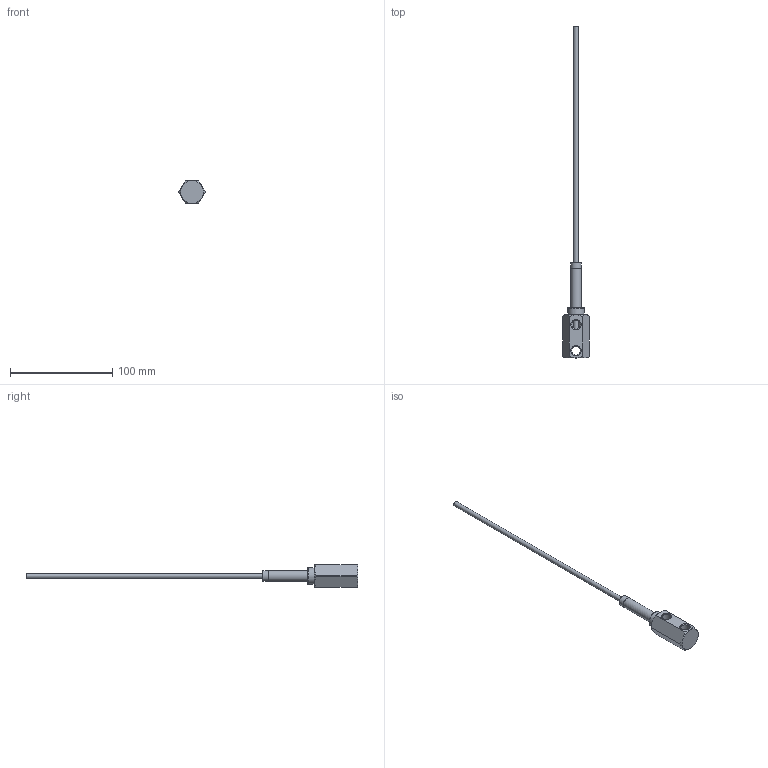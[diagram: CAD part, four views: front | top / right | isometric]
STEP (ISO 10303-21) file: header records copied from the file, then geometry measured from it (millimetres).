
FILE_DESCRIPTION(/* description */ (''),/* implementation_level */ '2;1');
FILE_NAME(/* name */ 'C:/Users/drich/Desktop/181N v1.step',/* time_stamp */ '2020-01-15T19:40:43-06:00',/* author */ (''),/* organization */ (''),/* preprocessor_version */ 'ST-DEVELOPER v18',/* originating_system */ 'Autodesk Translation Framework v8.12.0.6',/* authorisation */ '');
FILE_SCHEMA (('AUTOMOTIVE_DESIGN { 1 0 10303 214 3 1 1 }'));
Length unit declared in the file: inch
Products named in the file (4): 181N; 181H; SSPN18-2; 187T-12
Assembly tree (3 placements, depth 2):
  181N
    181H
    SSPN18-2
    187T-12
Bounding box: 25.65 x 324.03 x 22.23 mm (x, y, z)
Volume: 21283.5 mm3; surface area: 16026.3 mm2
Topology: 3 solids, 3 shells, 60 faces, 164 edges, 112 vertices
Faces by surface type: cone 25, cylinder 18, plane 15, torus 2
Full cylindrical faces by diameter (mm): 3.124 x1, 4.064 x1, 4.727 x1, 6.833 x1, 8.707 x4, 10.262 x2, 10.312 x1, 15.875 x1
Entity records: 2126 total; most frequent: CARTESIAN_POINT 455, DIRECTION 351, ORIENTED_EDGE 328, EDGE_CURVE 164, AXIS2_PLACEMENT_3D 153, VERTEX_POINT 112, CIRCLE 84, EDGE_LOOP 72
